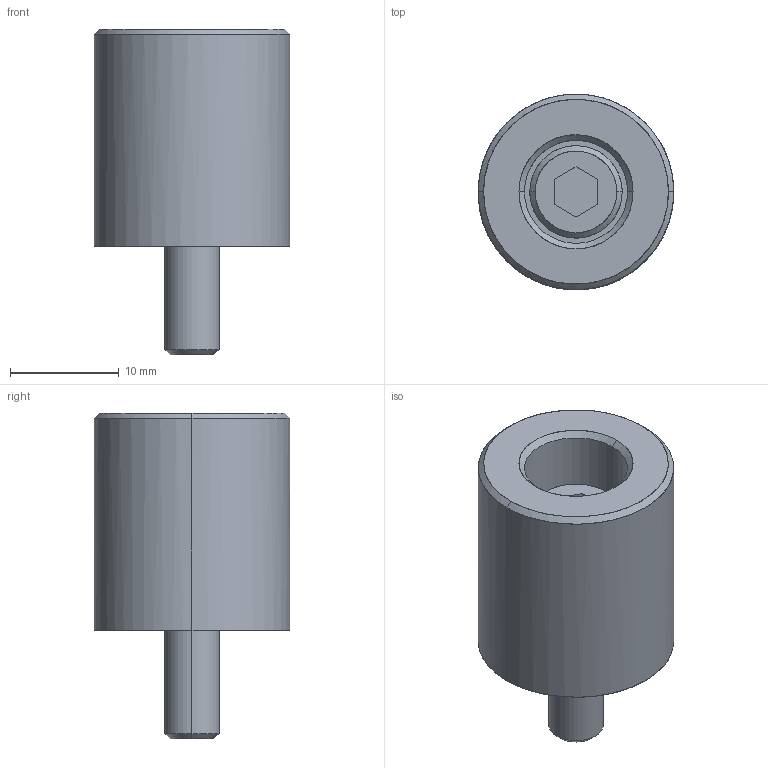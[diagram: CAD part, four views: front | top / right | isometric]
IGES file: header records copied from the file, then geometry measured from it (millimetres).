
Global section: file name: E:\UnigraphicsGraphicData\MISUMI_PRESS-PARTS\IGES\3d_sbv18-20-r-20_00589_r00.igs; native system: NX V5.0; preprocessor: UGS NX IGES V5.0; author: MISUMI; date: 20110105.162508; units: millimetre
Bounding box: 18 x 18 x 30 mm (x, y, z)
Surface area: 2629.4 mm2 (no closed solid volume)
Topology: 0 solids, 0 shells, 31 faces, 188 edges, 188 vertices
Faces by surface type: bspline 31
